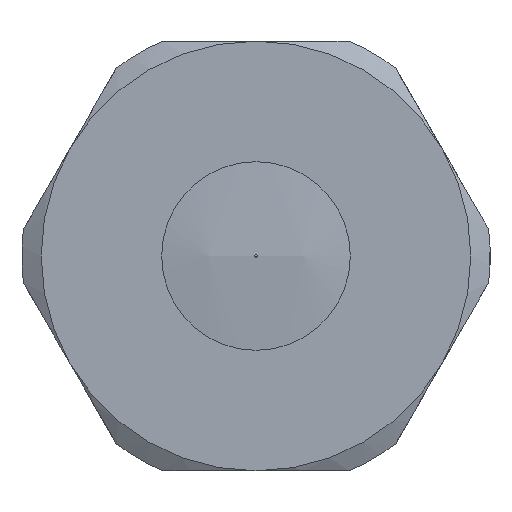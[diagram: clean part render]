
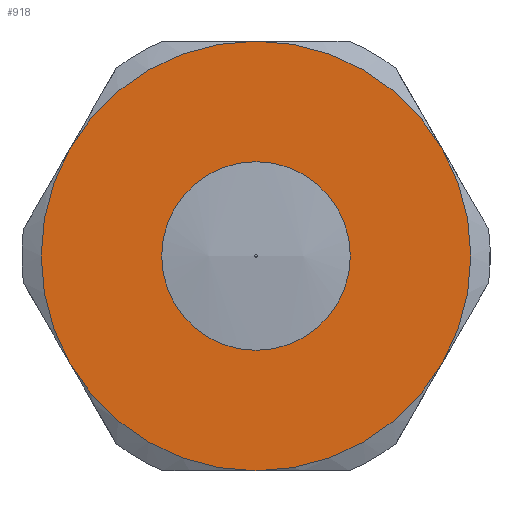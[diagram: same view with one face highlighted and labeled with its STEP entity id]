
A CAD part, left-side view. The second image highlights one B-rep face of the part: STEP entity #918.
In plain terms, the highlighted planar face has unit normal (-1, 0, 0).
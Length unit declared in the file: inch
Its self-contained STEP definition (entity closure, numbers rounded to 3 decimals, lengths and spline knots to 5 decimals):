
#365=CARTESIAN_POINT('',(-1.,-0.43301,1.25));
#366=VERTEX_POINT('',#365);
#443=CARTESIAN_POINT('',(-1.,-0.43301,0.75));
#444=VERTEX_POINT('',#443);
#514=CARTESIAN_POINT('',(-1.,0.,0.5));
#515=VERTEX_POINT('',#514);
#642=CARTESIAN_POINT('',(-1.,0.,1.5));
#643=VERTEX_POINT('',#642);
#683=CARTESIAN_POINT('',(-1.,0.43301,1.25));
#684=VERTEX_POINT('',#683);
#752=CARTESIAN_POINT('',(-1.,0.43301,0.75));
#753=VERTEX_POINT('',#752);
#792=CARTESIAN_POINT('',(-1.,0.,1.));
#793=DIRECTION('',(-1.0,0.0,0.0));
#794=DIRECTION('',(0.0,1.0,0.0));
#795=AXIS2_PLACEMENT_3D('',#792,#793,#794);
#796=CIRCLE('',#795,0.5);
#797=EDGE_CURVE('',#366,#643,#796,.T.);
#810=CARTESIAN_POINT('',(-1.,0.,1.));
#811=DIRECTION('',(-1.0,0.0,0.0));
#812=DIRECTION('',(0.0,1.0,0.0));
#813=AXIS2_PLACEMENT_3D('',#810,#811,#812);
#814=CIRCLE('',#813,0.5);
#815=EDGE_CURVE('',#643,#684,#814,.T.);
#828=CARTESIAN_POINT('',(-1.,0.,1.));
#829=DIRECTION('',(-1.0,0.0,0.0));
#830=DIRECTION('',(0.0,1.0,0.0));
#831=AXIS2_PLACEMENT_3D('',#828,#829,#830);
#832=CIRCLE('',#831,0.5);
#833=EDGE_CURVE('',#684,#753,#832,.T.);
#848=CARTESIAN_POINT('',(-1.,0.,1.));
#849=DIRECTION('',(-1.0,0.0,0.0));
#850=DIRECTION('',(0.0,1.0,0.0));
#851=AXIS2_PLACEMENT_3D('',#848,#849,#850);
#852=CIRCLE('',#851,0.5);
#853=EDGE_CURVE('',#753,#515,#852,.T.);
#866=CARTESIAN_POINT('',(-1.,0.,1.));
#867=DIRECTION('',(-1.0,0.0,0.0));
#868=DIRECTION('',(0.0,1.0,0.0));
#869=AXIS2_PLACEMENT_3D('',#866,#867,#868);
#870=CIRCLE('',#869,0.5);
#871=EDGE_CURVE('',#515,#444,#870,.T.);
#884=CARTESIAN_POINT('',(-1.,0.,1.));
#885=DIRECTION('',(-1.0,0.0,0.0));
#886=DIRECTION('',(0.0,1.0,0.0));
#887=AXIS2_PLACEMENT_3D('',#884,#885,#886);
#888=CIRCLE('',#887,0.5);
#889=EDGE_CURVE('',#444,#366,#888,.T.);
#894=CARTESIAN_POINT('',(-1.,0.,1.));
#895=DIRECTION('',(1.0,0.0,0.0));
#896=DIRECTION('',(0.0,0.0,-1.0));
#897=AXIS2_PLACEMENT_3D('',#894,#895,#896);
#898=PLANE('',#897);
#899=ORIENTED_EDGE('',*,*,#797,.T.);
#900=ORIENTED_EDGE('',*,*,#815,.T.);
#901=ORIENTED_EDGE('',*,*,#833,.T.);
#902=ORIENTED_EDGE('',*,*,#853,.T.);
#903=ORIENTED_EDGE('',*,*,#871,.T.);
#904=ORIENTED_EDGE('',*,*,#889,.T.);
#905=EDGE_LOOP('',(#899,#900,#901,#902,#903,#904));
#906=FACE_OUTER_BOUND('',#905,.T.);
#907=CARTESIAN_POINT('',(-1.,0.2195,1.));
#908=VERTEX_POINT('',#907);
#909=CARTESIAN_POINT('',(-1.,0.,1.));
#910=DIRECTION('',(1.0,0.0,0.0));
#911=DIRECTION('',(0.0,1.0,0.0));
#912=AXIS2_PLACEMENT_3D('',#909,#910,#911);
#913=CIRCLE('',#912,0.2195);
#914=EDGE_CURVE('',#908,#908,#913,.T.);
#915=ORIENTED_EDGE('',*,*,#914,.T.);
#916=EDGE_LOOP('',(#915));
#917=FACE_BOUND('',#916,.T.);
#918=ADVANCED_FACE('',(#906,#917),#898,.F.);
